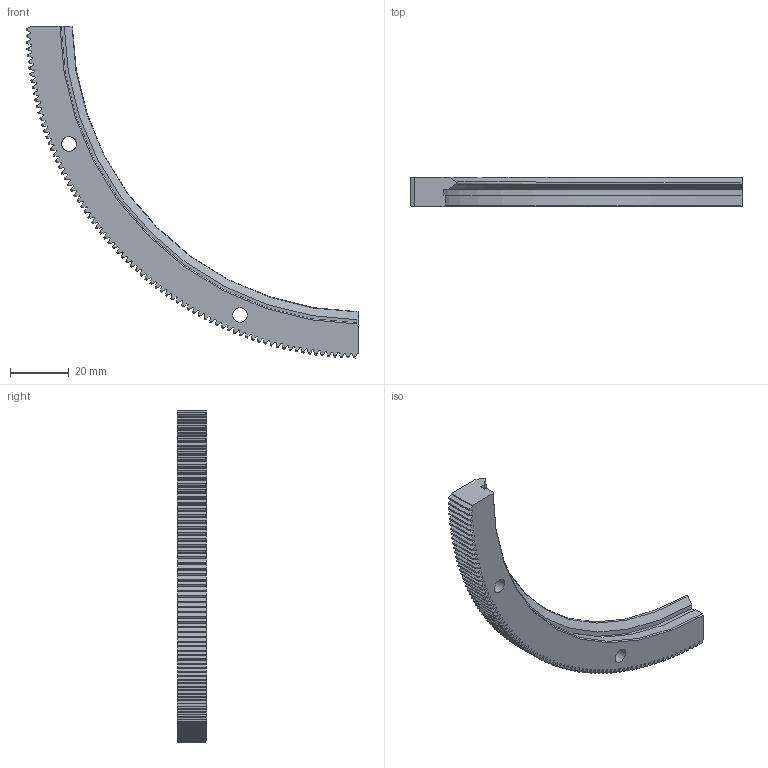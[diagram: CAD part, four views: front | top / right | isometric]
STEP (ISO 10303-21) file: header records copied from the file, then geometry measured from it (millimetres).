
FILE_DESCRIPTION(('STEP AP203'),'1');
FILE_NAME('RIV 228 R90 P.stp','2022-07-19T05:00:45',(' '),(' '),'Spatial InterOp 3D',' ',' ');
FILE_SCHEMA(('CONFIG_CONTROL_DESIGN'));
Length unit declared in the file: millimetre
Products named in the file (1): RIV 228 R90 P
Bounding box: 113.08 x 10 x 113.08 mm (x, y, z)
Volume: 19704.4 mm3; surface area: 10294.2 mm2
Topology: 1 solids, 1 shells, 500 faces, 1490 edges, 994 vertices
Faces by surface type: plane 330, cylinder 86, cone 83, torus 1
Full cylindrical faces by diameter (mm): 5 x2, 8 x2
Entity records: 16903 total; most frequent: CARTESIAN_POINT 3497, ORIENTED_EDGE 2968, DIRECTION 2575, EDGE_CURVE 1484, LINE 1059, VECTOR 1059, VERTEX_POINT 992, AXIS2_PLACEMENT_3D 758
